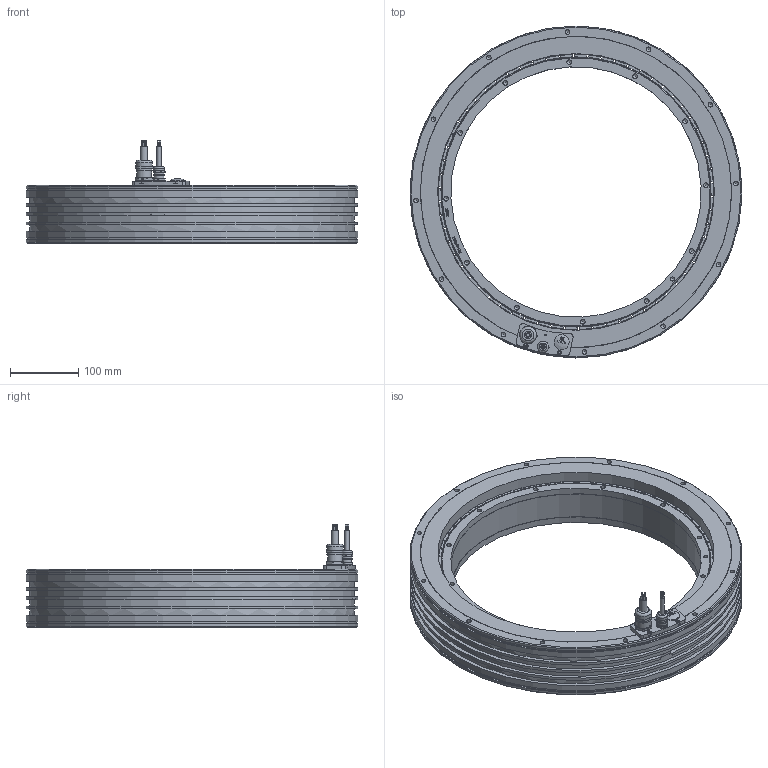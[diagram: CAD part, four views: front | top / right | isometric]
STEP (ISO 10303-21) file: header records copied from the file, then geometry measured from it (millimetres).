
FILE_DESCRIPTION(/* description */ ('QTL-485-85 KIT'),/* implementation_level */ '2;1');
FILE_NAME(/* name */ '1117121_190329',/* time_stamp */ '2020-05-25T17:08:03+02:00',/* author */ ('MTE'),/* organization */ ('TECNOTION'),/* preprocessor_version */ 'ST-DEVELOPER v16.7',/* originating_system */ 'DEX',/* authorisation */ $);
FILE_SCHEMA (('AUTOMOTIVE_DESIGN {1 0 10303 214 3 1 1}'));
Length unit declared in the file: millimetre
Products named in the file (17): 1117121_190329; 1117091_190329_oa_0; 1117021_190424_oa_1; 1117011_190329_oa_2; 1116911_190329_oa_3; 1117431_190402_oa_4; 1117441_190402; 1111681_181205; Sensor cable 4x2x0,18; 1105631_180801; Power cable; SKINDICHT BL-M 20x1,5 + O-Ring      Art_ Nr_ 52103125_Messing vernick
elt; Inbus_M3x10; Resin QTR 485 85_190129; 1117061_190329; 1116931_190329; 1115781_190225
Assembly tree (78 placements, depth 5):
  1117121_190329
    1117091_190329_oa_0
      1117021_190424_oa_1
        1117011_190329_oa_2
          1116911_190329_oa_3
      1117431_190402_oa_4
        1117441_190402
        1111681_181205
        Sensor cable 4x2x0,18
        1105631_180801
        Power cable
        SKINDICHT BL-M 20x1,5 + O-Ring      Art_ Nr_ 52103125_Messing vernick
elt
        Inbus_M3x10  x2
      Resin QTR 485 85_190129
    1117061_190329
      1116931_190329
      1115781_190225  x62
Bounding box: 485 x 485 x 150 mm (x, y, z)
Volume: 5739811.4 mm3; surface area: 1045948.8 mm2
Topology: 73 solids, 73 shells, 2332 faces, 5291 edges, 2683 vertices
Faces by surface type: cylinder 936, plane 765, sphere 498, cone 116, bspline 12, torus 5
Full cylindrical faces by diameter (mm): 1.35 x6, 1.5 x6, 1.598 x4, 2 x4, 2.459 x3, 3 x2, 3.2 x2, 3.5 x1, 5.5 x2, 6 x2, 6.4 x1, 6.5 x2, 6.647 x48, 7 x1, 8.136 x1, 10.16 x1, 10.376 x1, 10.6 x1, 12 x1, 14 x1, 14.528 x1, 14.536 x1, 15.68 x1, 15.98 x1, 18.16 x1, 18.376 x2, 20 x2, 22 x2, 23.52 x1, 23.98 x1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
Entity records: 24720 total; most frequent: CARTESIAN_POINT 5141, DIRECTION 3094, ORIENTED_EDGE 3032, EDGE_CURVE 1516, AXIS2_PLACEMENT_3D 1287, VERTEX_POINT 1128, FACE_BOUND 1072, EDGE_LOOP 1020
